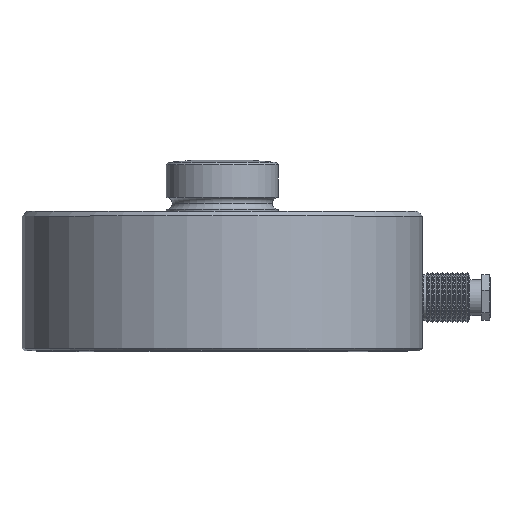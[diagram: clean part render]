
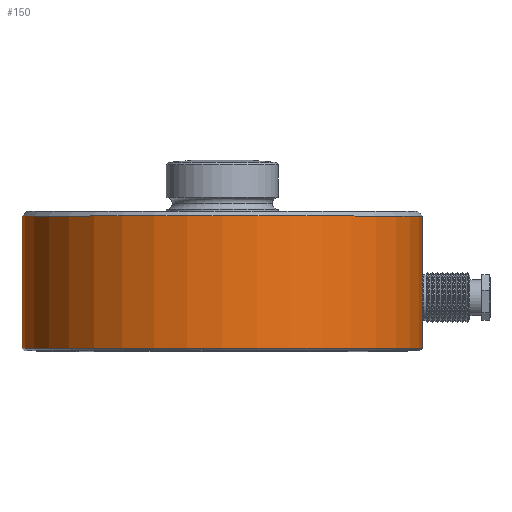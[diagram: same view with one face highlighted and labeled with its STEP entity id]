
A CAD part, top view. The second image highlights one B-rep face of the part: STEP entity #150.
In plain terms, the highlighted cylindrical face has radius 50 mm (diameter 100 mm), a partial arc.
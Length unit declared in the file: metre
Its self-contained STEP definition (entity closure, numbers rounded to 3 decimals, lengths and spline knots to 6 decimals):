
#150=ADVANCED_FACE('0:50',(#316),#317,.T.);
#316=FACE_OUTER_BOUND('',#612,.T.);
#317=CYLINDRICAL_SURFACE('',#613,0.05);
#612=EDGE_LOOP('',(#1009,#1010,#1011,#1012));
#613=AXIS2_PLACEMENT_3D('',#1013,#1014,#1015);
#1009=ORIENTED_EDGE('',*,*,#1906,.T.);
#1010=ORIENTED_EDGE('',*,*,#1912,.T.);
#1011=ORIENTED_EDGE('',*,*,#1908,.T.);
#1012=ORIENTED_EDGE('',*,*,#1905,.F.);
#1013=CARTESIAN_POINT('',(0.0,0.,0.047904));
#1014=DIRECTION('',(0.0,0.,1.0));
#1015=DIRECTION('',(-1.0,0.0,0.0));
#1905=EDGE_CURVE('0:125',#2222,#2218,#2224,.T.);
#1906=EDGE_CURVE('',#2222,#2225,#2226,.T.);
#1908=EDGE_CURVE('',#2228,#2218,#2229,.T.);
#1912=EDGE_CURVE('0:119',#2225,#2228,#2233,.T.);
#2218=VERTEX_POINT('',#2889);
#2222=VERTEX_POINT('',#2894);
#2224=CIRCLE('',#2897,0.05);
#2225=VERTEX_POINT('',#2898);
#2226=LINE('',#2899,#2900);
#2228=VERTEX_POINT('',#2902);
#2229=LINE('',#2903,#2904);
#2233=CIRCLE('',#2910,0.05);
#2889=CARTESIAN_POINT('',(0.05,0.,0.033704));
#2894=CARTESIAN_POINT('',(-0.05,0.,0.033704));
#2897=AXIS2_PLACEMENT_3D('',#3696,#3697,#3698);
#2898=CARTESIAN_POINT('',(-0.05,0.,0.000704));
#2899=CARTESIAN_POINT('',(-0.05,0.,0.017204));
#2900=VECTOR('',#3699,1.0);
#2902=CARTESIAN_POINT('',(0.05,0.,0.000704));
#2903=CARTESIAN_POINT('',(0.05,0.,0.017204));
#2904=VECTOR('',#3703,1.0);
#2910=AXIS2_PLACEMENT_3D('',#3709,#3710,#3711);
#3696=CARTESIAN_POINT('',(0.0,0.,0.033704));
#3697=DIRECTION('',(0.,0.,1.0));
#3698=DIRECTION('',(1.0,0.,0.));
#3699=DIRECTION('',(-0.0,0.,-1.0));
#3703=DIRECTION('',(0.0,0.,1.0));
#3709=CARTESIAN_POINT('',(0.,0.,0.000704));
#3710=DIRECTION('',(0.0,0.,1.0));
#3711=DIRECTION('',(1.0,0.0,0.0));
